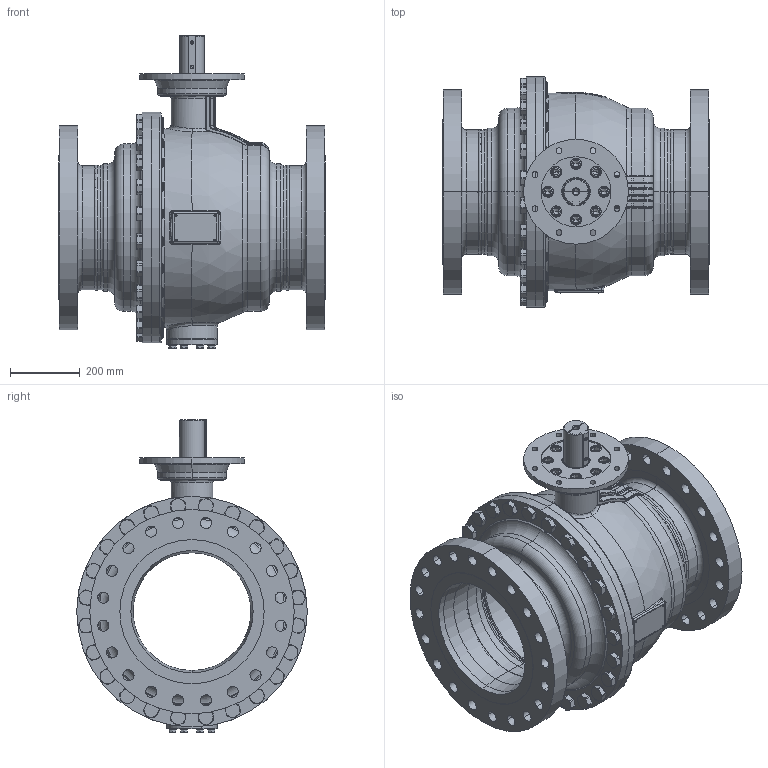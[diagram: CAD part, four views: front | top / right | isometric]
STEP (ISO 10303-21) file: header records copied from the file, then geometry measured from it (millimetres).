
FILE_DESCRIPTION((''),'2;1');
FILE_NAME('KHI-F_350_CL300-F25-P_SW0001','2026-02-05T15:31:56',('fischerkl'),('KLINGER'),'CREO PARAMETRIC BY PTC INC, 2023014','CREO PARAMETRIC BY PTC INC, 2023014','');
FILE_SCHEMA(('CONFIG_CONTROL_DESIGN'));
Products named in the file (1): KHI-F_350_CL300-F25-P_SW0001
Bounding box: 762 x 660 x 895.8 mm (x, y, z)
Volume: 53127428 mm3; surface area: 6475766.6 mm2
Topology: 1 solids, 4 shells, 3450 faces, 8713 edges, 5441 vertices
Faces by surface type: plane 1745, cylinder 823, cone 454, torus 299, bspline 99, sphere 30
Entity records: 145594 total; most frequent: CARTESIAN_POINT 63222, ORIENTED_EDGE 17374, DIRECTION 17082, EDGE_CURVE 8687, AXIS2_PLACEMENT_3D 6522, VERTEX_POINT 5441, VECTOR 4038, LINE 4038
